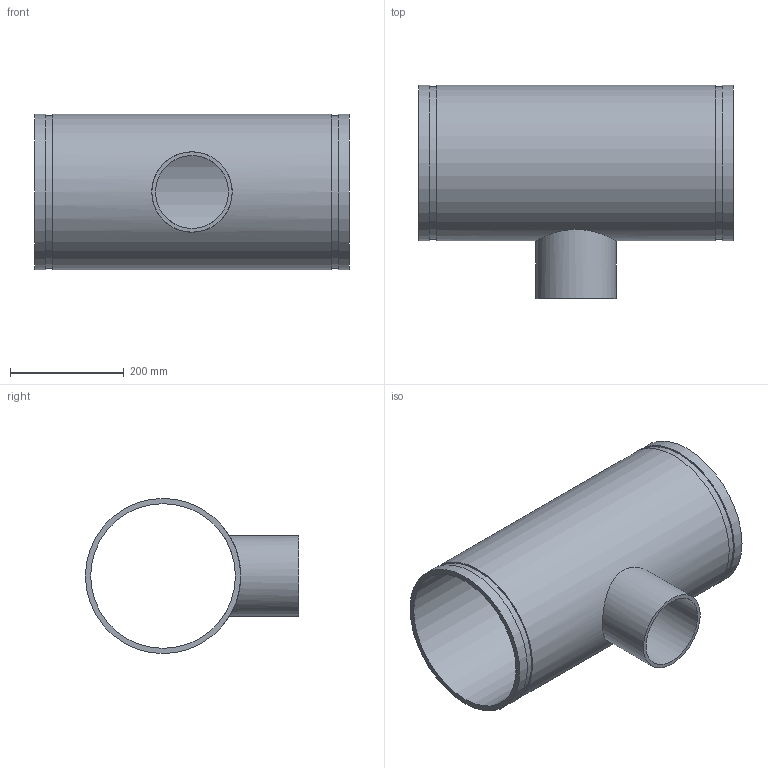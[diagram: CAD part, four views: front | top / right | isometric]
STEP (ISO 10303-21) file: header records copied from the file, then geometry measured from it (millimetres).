
FILE_DESCRIPTION(/* description */ ('VIC REDUCING TEE No 29T FFT (OGSxMPT)','CAx-IF Rec.Pracs.---Representation and Presentation of Product Manufacturing Information (PMI)---4.0---2014-10-13'),/* implementation_level */ '2;1');
FILE_NAME(/* name */ 'C:\Users\kkamble\AppData\Roaming\Autodesk\ApplicationPlugins\Back Up\Victaulic_IPS_Tee Reducing_No 29T FFT (OGSxMPT)\Victaulic_IPS_Tee Reducing_No 29T FFT (OGSxMPT)_10.0x05.0 (250x125).stp',/* time_stamp */ '2020-09-16T22:39:05+05:00',/* author */ ('CORINNE GRAY'),/* organization */ ('Victaulic'),/* preprocessor_version */ 'ST-DEVELOPER v17.2',/* originating_system */ 'Autodesk Inventor 2019',/* authorisation */ '');
FILE_SCHEMA (('AP242_MANAGED_MODEL_BASED_3D_ENGINEERING_MIM_LF { 1 0 10303 442 1 1 4 }'));
Length unit declared in the file: inch
Products named in the file (1): 29 FFT-10.0x05.0
Bounding box: 552.7 x 374.78 x 273.05 mm (x, y, z)
Volume: 4377744.5 mm3; surface area: 1009860.5 mm2
Topology: 1 solids, 1 shells, 15 faces, 32 edges, 24 vertices
Faces by surface type: cylinder 8, plane 7
Full cylindrical faces by diameter (mm): 128.194 x1, 141.3 x1, 254.508 x1, 268.275 x2, 273.05 x3
Entity records: 709 total; most frequent: CARTESIAN_POINT 221, DIRECTION 106, ORIENTED_EDGE 64, AXIS2_PLACEMENT_3D 49, EDGE_CURVE 32, EDGE_LOOP 24, VERTEX_POINT 24, CIRCLE 20
